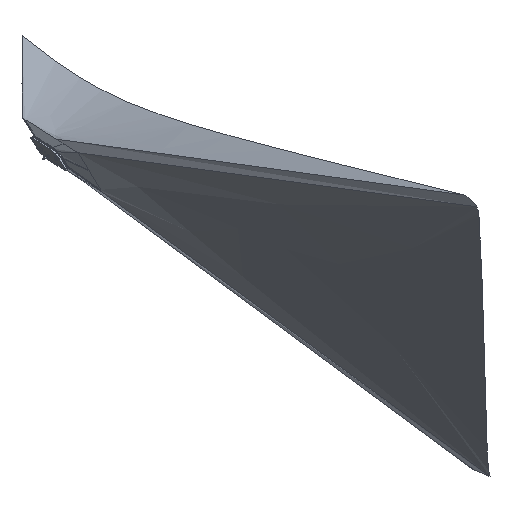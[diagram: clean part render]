
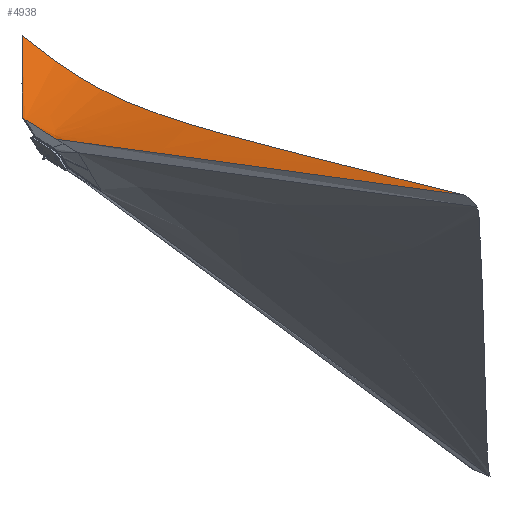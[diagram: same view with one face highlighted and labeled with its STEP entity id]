
A CAD part, isometric view. The second image highlights one B-rep face of the part: STEP entity #4938.
In plain terms, the highlighted free-form (B-spline) face has degree [5, 1] with [12, 2] control points.
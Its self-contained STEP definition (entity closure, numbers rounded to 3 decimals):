
#4397=CARTESIAN_POINT('Vertex',(25.,123.143,46.4)) ;
#4401=CARTESIAN_POINT('Control Point',(25.,123.143,46.4)) ;
#4402=CARTESIAN_POINT('Control Point',(25.,121.53,46.33)) ;
#4403=CARTESIAN_POINT('Control Point',(25.,119.916,46.259)) ;
#4404=CARTESIAN_POINT('Control Point',(25.,118.158,46.182)) ;
#4405=CARTESIAN_POINT('Control Point',(25.,116.546,46.112)) ;
#4406=CARTESIAN_POINT('Control Point',(25.,114.935,46.042)) ;
#4407=CARTESIAN_POINT('Vertex',(25.,114.935,46.042)) ;
#4821=CARTESIAN_POINT('Control Point',(25.,123.143,46.4)) ;
#4822=CARTESIAN_POINT('Control Point',(2077.947,2210.095,923.896)) ;
#4823=CARTESIAN_POINT('Control Point',(25.,114.418,46.019)) ;
#4824=CARTESIAN_POINT('Control Point',(2412.239,1898.362,923.896)) ;
#4825=CARTESIAN_POINT('Control Point',(25.,105.692,45.638)) ;
#4826=CARTESIAN_POINT('Control Point',(2687.591,1523.425,923.896)) ;
#4827=CARTESIAN_POINT('Control Point',(25.,96.97,45.257)) ;
#4828=CARTESIAN_POINT('Control Point',(2887.94,1100.266,923.896)) ;
#4829=CARTESIAN_POINT('Control Point',(25.,79.586,44.498)) ;
#4830=CARTESIAN_POINT('Control Point',(3118.087,202.465,923.896)) ;
#4831=CARTESIAN_POINT('Control Point',(25.,62.202,43.739)) ;
#4832=CARTESIAN_POINT('Control Point',(3005.876,-717.304,923.896)) ;
#4833=CARTESIAN_POINT('Control Point',(25.,53.546,43.361)) ;
#4834=CARTESIAN_POINT('Control Point',(2863.675,-1159.46,923.896)) ;
#4835=CARTESIAN_POINT('Control Point',(25.,36.294,42.608)) ;
#4836=CARTESIAN_POINT('Control Point',(2422.078,-1966.025,923.896)) ;
#4837=CARTESIAN_POINT('Control Point',(25.,19.043,41.855)) ;
#4838=CARTESIAN_POINT('Control Point',(1719.134,-2558.466,923.896)) ;
#4839=CARTESIAN_POINT('Control Point',(25.,10.453,41.48)) ;
#4840=CARTESIAN_POINT('Control Point',(1317.461,-2784.207,923.896)) ;
#4841=CARTESIAN_POINT('Control Point',(25.,1.86,41.105)) ;
#4842=CARTESIAN_POINT('Control Point',(883.349,-2929.864,923.896)) ;
#4843=CARTESIAN_POINT('Control Point',(25.,-6.733,40.729)) ;
#4844=CARTESIAN_POINT('Control Point',(437.57,-2992.514,923.896)) ;
#4846=CARTESIAN_POINT('Control Point',(217.,318.323,128.467)) ;
#4847=CARTESIAN_POINT('Control Point',(217.,301.203,125.058)) ;
#4848=CARTESIAN_POINT('Control Point',(217.,285.46,122.107)) ;
#4849=CARTESIAN_POINT('Control Point',(217.,270.792,119.519)) ;
#4850=CARTESIAN_POINT('Control Point',(217.,244.952,115.239)) ;
#4851=CARTESIAN_POINT('Control Point',(217.,221.617,111.862)) ;
#4852=CARTESIAN_POINT('Control Point',(217.,211.191,110.455)) ;
#4853=CARTESIAN_POINT('Control Point',(217.,190.183,107.822)) ;
#4854=CARTESIAN_POINT('Control Point',(217.,170.524,105.761)) ;
#4855=CARTESIAN_POINT('Control Point',(217.,160.569,104.823)) ;
#4856=CARTESIAN_POINT('Control Point',(217.,135.549,102.725)) ;
#4857=CARTESIAN_POINT('Control Point',(217.,111.734,101.379)) ;
#4858=CARTESIAN_POINT('Control Point',(217.,97.44,100.803)) ;
#4859=CARTESIAN_POINT('Control Point',(217.,72.37,100.195)) ;
#4860=CARTESIAN_POINT('Control Point',(217.,47.201,100.317)) ;
#4861=CARTESIAN_POINT('Control Point',(217.,36.19,100.508)) ;
#4862=CARTESIAN_POINT('Control Point',(217.,15.397,101.131)) ;
#4863=CARTESIAN_POINT('Control Point',(217.,-6.206,102.297)) ;
#4864=CARTESIAN_POINT('Control Point',(217.,-16.434,102.96)) ;
#4865=CARTESIAN_POINT('Control Point',(217.,-37.073,104.531)) ;
#4866=CARTESIAN_POINT('Control Point',(217.,-59.124,106.7)) ;
#4867=CARTESIAN_POINT('Control Point',(217.,-70.349,107.924)) ;
#4868=CARTESIAN_POINT('Control Point',(217.,-105.939,112.196)) ;
#4869=CARTESIAN_POINT('Control Point',(217.,-147.272,118.472)) ;
#4870=CARTESIAN_POINT('Control Point',(217.,-178.599,123.868)) ;
#4871=CARTESIAN_POINT('Control Point',(217.,-229.092,133.618)) ;
#4872=CARTESIAN_POINT('Control Point',(217.,-296.639,148.72)) ;
#4873=CARTESIAN_POINT('Control Point',(217.,-316.571,153.308)) ;
#4874=CARTESIAN_POINT('Control Point',(217.,-357.144,162.915)) ;
#4875=CARTESIAN_POINT('Control Point',(217.,-404.148,174.566)) ;
#4876=CARTESIAN_POINT('Control Point',(217.,-427.629,180.494)) ;
#4877=CARTESIAN_POINT('Control Point',(217.,-475.722,192.845)) ;
#4878=CARTESIAN_POINT('Control Point',(217.,-529.126,206.943)) ;
#4879=CARTESIAN_POINT('Control Point',(217.,-555.89,214.089)) ;
#4880=CARTESIAN_POINT('Control Point',(217.,-615.163,230.071)) ;
#4881=CARTESIAN_POINT('Control Point',(217.,-678.305,247.398)) ;
#4882=CARTESIAN_POINT('Control Point',(217.,-712.737,256.919)) ;
#4883=CARTESIAN_POINT('Control Point',(217.,-805.995,282.873)) ;
#4884=CARTESIAN_POINT('Control Point',(217.,-902.894,310.215)) ;
#4885=CARTESIAN_POINT('Control Point',(217.,-964.233,327.63)) ;
#4886=CARTESIAN_POINT('Control Point',(217.,-1086.845,362.602)) ;
#4887=CARTESIAN_POINT('Control Point',(217.,-1210.756,398.199)) ;
#4888=CARTESIAN_POINT('Control Point',(217.,-1272.464,415.973)) ;
#4889=CARTESIAN_POINT('Control Point',(217.,-1334.312,433.826)) ;
#4890=CARTESIAN_POINT('Control Point',(217.,-1396.241,451.733)) ;
#4891=CARTESIAN_POINT('Vertex',(217.,318.323,128.467)) ;
#4893=CARTESIAN_POINT('Vertex',(217.,-1396.241,451.733)) ;
#4897=CARTESIAN_POINT('Control Point',(25.,-6.733,40.729)) ;
#4898=CARTESIAN_POINT('Control Point',(217.,-1396.241,451.733)) ;
#4899=CARTESIAN_POINT('Vertex',(25.,-6.733,40.729)) ;
#4903=CARTESIAN_POINT('Control Point',(25.,-4.695,40.818)) ;
#4904=CARTESIAN_POINT('Control Point',(25.,-5.103,40.801)) ;
#4905=CARTESIAN_POINT('Control Point',(25.,-5.51,40.783)) ;
#4906=CARTESIAN_POINT('Control Point',(25.,-5.918,40.765)) ;
#4907=CARTESIAN_POINT('Control Point',(25.,-6.326,40.747)) ;
#4908=CARTESIAN_POINT('Control Point',(25.,-6.733,40.729)) ;
#4909=CARTESIAN_POINT('Vertex',(25.,-4.695,40.818)) ;
#4913=CARTESIAN_POINT('Control Point',(25.,114.935,46.042)) ;
#4914=CARTESIAN_POINT('Control Point',(25.,107.852,45.732)) ;
#4915=CARTESIAN_POINT('Control Point',(25.,100.769,45.423)) ;
#4916=CARTESIAN_POINT('Control Point',(25.,93.687,45.114)) ;
#4917=CARTESIAN_POINT('Control Point',(25.,77.945,44.427)) ;
#4918=CARTESIAN_POINT('Control Point',(25.,62.202,43.739)) ;
#4919=CARTESIAN_POINT('Control Point',(25.,53.546,43.361)) ;
#4920=CARTESIAN_POINT('Control Point',(25.,36.702,42.626)) ;
#4921=CARTESIAN_POINT('Control Point',(25.,19.858,41.89)) ;
#4922=CARTESIAN_POINT('Control Point',(25.,11.675,41.533)) ;
#4923=CARTESIAN_POINT('Control Point',(25.,3.49,41.176)) ;
#4924=CARTESIAN_POINT('Control Point',(25.,-4.695,40.818)) ;
#4927=CARTESIAN_POINT('Control Point',(25.,123.143,46.4)) ;
#4928=CARTESIAN_POINT('Control Point',(217.,318.323,128.467)) ;
#4931=ORIENTED_EDGE('',*,*,#4895,.T.) ;
#4932=ORIENTED_EDGE('',*,*,#4901,.F.) ;
#4933=ORIENTED_EDGE('',*,*,#4911,.F.) ;
#4934=ORIENTED_EDGE('',*,*,#4925,.F.) ;
#4935=ORIENTED_EDGE('',*,*,#4409,.T.) ;
#4936=ORIENTED_EDGE('',*,*,#4929,.T.) ;
#4938=ADVANCED_FACE('Surface.1',(#4937),#4820,.F.) ;
#4400=B_SPLINE_CURVE_WITH_KNOTS('',5,(#4401,#4402,#4403,#4404,#4405,#4406),.UNSPECIFIED.,.F.,.U.,(6,6),(0.,6.153),.UNSPECIFIED.) ;
#4845=B_SPLINE_CURVE_WITH_KNOTS('',5,(#4846,#4847,#4848,#4849,#4850,#4851,#4852,#4853,#4854,#4855,#4856,#4857,#4858,#4859,#4860,#4861,#4862,#4863,#4864,#4865,#4866,#4867,#4868,#4869,#4870,#4871,#4872,#4873,#4874,#4875,#4876,#4877,#4878,#4879,#4880,#4881,#4882,#4883,#4884,#4885,#4886,#4887,#4888,#4889,#4890),.UNSPECIFIED.,.F.,.U.,(6,3,3,3,3,3,3,3,3,3,3,3,3,3,6),(0.,415.479,777.837,1172.222,1792.478,2268.411,2678.812,3073.905,3877.989,4180.291,4445.911,4690.942,4968.702,5429.478,5884.389),.UNSPECIFIED.) ;
#4896=B_SPLINE_CURVE_WITH_KNOTS('',1,(#4897,#4898),.UNSPECIFIED.,.F.,.U.,(2,2),(0.,1443.111),.UNSPECIFIED.) ;
#4902=B_SPLINE_CURVE_WITH_KNOTS('',5,(#4903,#4904,#4905,#4906,#4907,#4908),.UNSPECIFIED.,.F.,.U.,(6,6),(4736.698,4812.228),.UNSPECIFIED.) ;
#4912=B_SPLINE_CURVE_WITH_KNOTS('',5,(#4913,#4914,#4915,#4916,#4917,#4918,#4919,#4920,#4921,#4922,#4923,#4924),.UNSPECIFIED.,.F.,.U.,(6,3,3,6),(304.089,1616.34,3220.385,4736.698),.UNSPECIFIED.) ;
#4926=B_SPLINE_CURVE_WITH_KNOTS('',1,(#4927,#4928),.UNSPECIFIED.,.F.,.U.,(2,2),(0.,290.015),.UNSPECIFIED.) ;
#4820=B_SPLINE_SURFACE_WITH_KNOTS('',5,1,((#4821,#4822),(#4823,#4824),(#4825,#4826),(#4827,#4828),(#4829,#4830),(#4831,#4832),(#4833,#4834),(#4835,#4836),(#4837,#4838),(#4839,#4840),(#4841,#4842),(#4843,#4844)),.UNSPECIFIED.,.F.,.F.,.U.,(6,3,3,6),(2,2),(0.,1616.34,3220.385,4812.228),(0.,3100.962),.UNSPECIFIED.) ;
#4409=EDGE_CURVE('',#4408,#4398,#4400,.F.) ;
#4895=EDGE_CURVE('',#4892,#4894,#4845,.T.) ;
#4901=EDGE_CURVE('',#4900,#4894,#4896,.T.) ;
#4911=EDGE_CURVE('',#4910,#4900,#4902,.T.) ;
#4925=EDGE_CURVE('',#4408,#4910,#4912,.T.) ;
#4929=EDGE_CURVE('',#4398,#4892,#4926,.T.) ;
#4930=EDGE_LOOP('',(#4931,#4932,#4933,#4934,#4935,#4936)) ;
#4937=FACE_OUTER_BOUND('',#4930,.T.) ;
#4398=VERTEX_POINT('',#4397) ;
#4408=VERTEX_POINT('',#4407) ;
#4892=VERTEX_POINT('',#4891) ;
#4894=VERTEX_POINT('',#4893) ;
#4900=VERTEX_POINT('',#4899) ;
#4910=VERTEX_POINT('',#4909) ;
